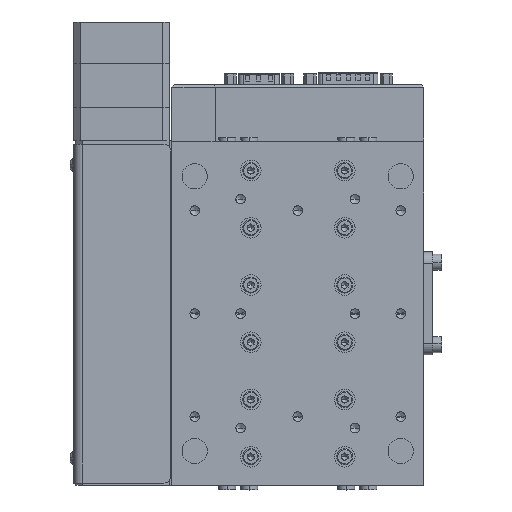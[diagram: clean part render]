
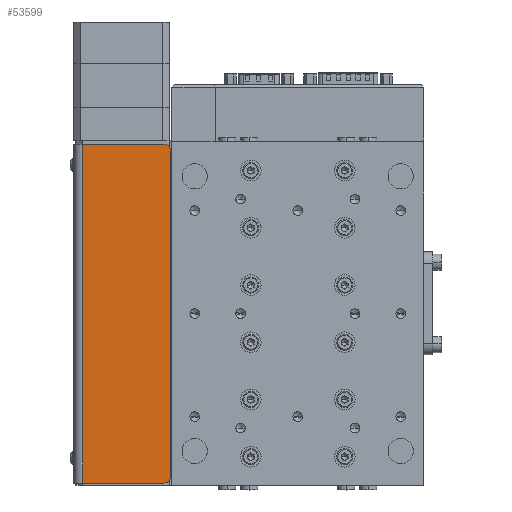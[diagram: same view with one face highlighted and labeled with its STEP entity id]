
A CAD part, top view. The second image highlights one B-rep face of the part: STEP entity #53599.
In plain terms, the highlighted planar face has unit normal (0, 0, 1).
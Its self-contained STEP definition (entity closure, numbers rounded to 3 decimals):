
#617 = EDGE_CURVE ( 'NONE', #34213, #38033, #55194, .T. ) ;
#3991 = EDGE_CURVE ( 'NONE', #10582, #11098, #31557, .T. ) ;
#4421 = LINE ( 'NONE', #11350, #34753 ) ;
#5290 = DIRECTION ( 'NONE',  ( -1., 0., 0. ) ) ;
#5436 = VERTEX_POINT ( 'NONE', #19447 ) ;
#7229 = LINE ( 'NONE', #17765, #52622 ) ;
#7545 = DIRECTION ( 'NONE',  ( 0., 0., 1. ) ) ;
#7883 = CARTESIAN_POINT ( 'NONE',  ( -55.5, -71., 41.1 ) ) ;
#8077 = DIRECTION ( 'NONE',  ( -1., 0., 0. ) ) ;
#9533 = ORIENTED_EDGE ( 'NONE', *, *, #42770, .F. ) ;
#9888 = EDGE_CURVE ( 'NONE', #11098, #5436, #4421, .T. ) ;
#10582 = VERTEX_POINT ( 'NONE', #16083 ) ;
#10919 = EDGE_CURVE ( 'NONE', #10582, #21341, #44597, .T. ) ;
#11098 = VERTEX_POINT ( 'NONE', #7883 ) ;
#11112 = CARTESIAN_POINT ( 'NONE',  ( -58.5, 74., 41.1 ) ) ;
#11350 = CARTESIAN_POINT ( 'NONE',  ( -55.5, -133.391, 41.1 ) ) ;
#12307 = PLANE ( 'NONE',  #40768 ) ;
#13084 = ORIENTED_EDGE ( 'NONE', *, *, #16998, .T. ) ;
#15591 = ORIENTED_EDGE ( 'NONE', *, *, #617, .F. ) ;
#16083 = CARTESIAN_POINT ( 'NONE',  ( -58.5, -74., 41.1 ) ) ;
#16998 = EDGE_CURVE ( 'NONE', #5436, #38033, #45048, .T. ) ;
#17765 = CARTESIAN_POINT ( 'NONE',  ( -94., -133.391, 41.1 ) ) ;
#17828 = DIRECTION ( 'NONE',  ( 0., 0., 1. ) ) ;
#17959 = DIRECTION ( 'NONE',  ( 0., 1., 0. ) ) ;
#19045 = AXIS2_PLACEMENT_3D ( 'NONE', #51712, #7545, #51916 ) ;
#19447 = CARTESIAN_POINT ( 'NONE',  ( -55.5, 71., 41.1 ) ) ;
#19679 = CARTESIAN_POINT ( 'NONE',  ( -94., -74., 41.1 ) ) ;
#21293 = CARTESIAN_POINT ( 'NONE',  ( -94., -74., 41.1 ) ) ;
#21341 = VERTEX_POINT ( 'NONE', #21293 ) ;
#21936 = VECTOR ( 'NONE', #24494, 1000. ) ;
#22884 = FACE_OUTER_BOUND ( 'NONE', #26235, .T. ) ;
#23388 = ORIENTED_EDGE ( 'NONE', *, *, #10919, .F. ) ;
#24494 = DIRECTION ( 'NONE',  ( -1., 0., 0. ) ) ;
#26235 = EDGE_LOOP ( 'NONE', ( #23388, #52393, #43202, #13084, #15591, #9533 ) ) ;
#28435 = CARTESIAN_POINT ( 'NONE',  ( -94., 74., 41.1 ) ) ;
#29601 = DIRECTION ( 'NONE',  ( 0., 0., -1. ) ) ;
#31557 = CIRCLE ( 'NONE', #19045, 3. ) ;
#34213 = VERTEX_POINT ( 'NONE', #28435 ) ;
#34753 = VECTOR ( 'NONE', #42078, 1000. ) ;
#38033 = VERTEX_POINT ( 'NONE', #11112 ) ;
#38148 = AXIS2_PLACEMENT_3D ( 'NONE', #44348, #17828, #5290 ) ;
#40768 = AXIS2_PLACEMENT_3D ( 'NONE', #47284, #29601, #8077 ) ;
#41090 = CARTESIAN_POINT ( 'NONE',  ( -94., 74., 41.1 ) ) ;
#42078 = DIRECTION ( 'NONE',  ( 0., 1., 0. ) ) ;
#42770 = EDGE_CURVE ( 'NONE', #21341, #34213, #7229, .T. ) ;
#43202 = ORIENTED_EDGE ( 'NONE', *, *, #9888, .T. ) ;
#44348 = CARTESIAN_POINT ( 'NONE',  ( -58.5, 71., 41.1 ) ) ;
#44597 = LINE ( 'NONE', #19679, #21936 ) ;
#45048 = CIRCLE ( 'NONE', #38148, 3. ) ;
#47284 = CARTESIAN_POINT ( 'NONE',  ( -94., -133.391, 41.1 ) ) ;
#50329 = VECTOR ( 'NONE', #55352, 1000. ) ;
#51712 = CARTESIAN_POINT ( 'NONE',  ( -58.5, -71., 41.1 ) ) ;
#51916 = DIRECTION ( 'NONE',  ( -1., 0., 0. ) ) ;
#52393 = ORIENTED_EDGE ( 'NONE', *, *, #3991, .T. ) ;
#52622 = VECTOR ( 'NONE', #17959, 1000. ) ;
#53599 = ADVANCED_FACE ( 'NONE', ( #22884 ), #12307, .F. ) ;
#55194 = LINE ( 'NONE', #41090, #50329 ) ;
#55352 = DIRECTION ( 'NONE',  ( 1., 0., 0. ) ) ;
